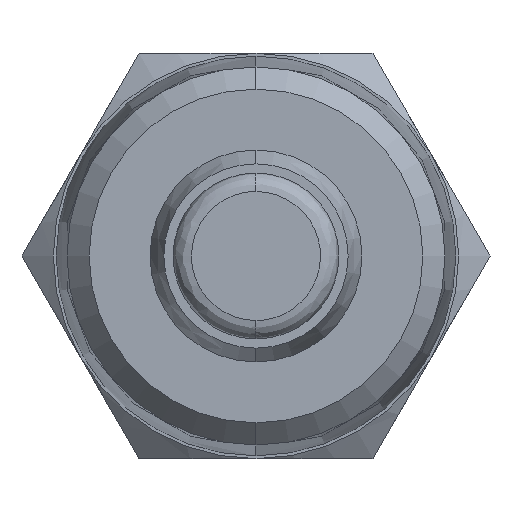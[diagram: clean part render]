
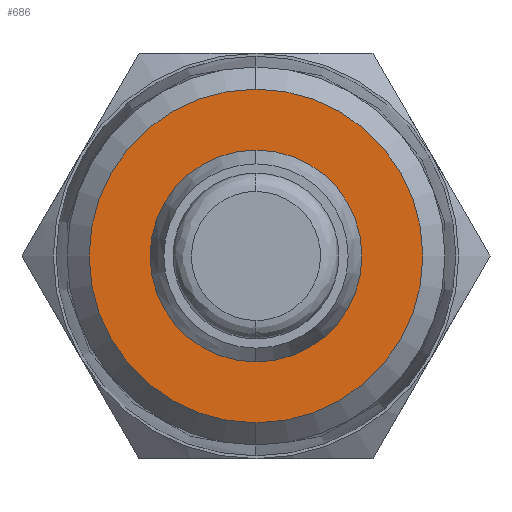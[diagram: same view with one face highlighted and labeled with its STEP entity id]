
A CAD part, left-side view. The second image highlights one B-rep face of the part: STEP entity #686.
In plain terms, the highlighted planar face has unit normal (-1, 0, 0).
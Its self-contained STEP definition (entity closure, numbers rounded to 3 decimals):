
#31 = EDGE_LOOP ( 'NONE', ( #508, #1588 ) ) ;
#118 = DIRECTION ( 'NONE',  ( -1., 0., 0. ) ) ;
#139 = VERTEX_POINT ( 'NONE', #399 ) ;
#230 = VERTEX_POINT ( 'NONE', #1264 ) ;
#247 = ORIENTED_EDGE ( 'NONE', *, *, #1251, .T. ) ;
#284 = AXIS2_PLACEMENT_3D ( 'NONE', #1045, #1757, #1751 ) ;
#365 = CARTESIAN_POINT ( 'NONE',  ( -37.5, 0., -5.75 ) ) ;
#370 = EDGE_LOOP ( 'NONE', ( #1329, #247 ) ) ;
#389 = AXIS2_PLACEMENT_3D ( 'NONE', #1104, #643, #1245 ) ;
#399 = CARTESIAN_POINT ( 'NONE',  ( -37.5, 0., 5.75 ) ) ;
#407 = CARTESIAN_POINT ( 'NONE',  ( -37.5, 0., 0. ) ) ;
#439 = DIRECTION ( 'NONE',  ( 0., 0., 1. ) ) ;
#451 = DIRECTION ( 'NONE',  ( 0., 0., -1. ) ) ;
#459 = DIRECTION ( 'NONE',  ( -1., 0., 0. ) ) ;
#508 = ORIENTED_EDGE ( 'NONE', *, *, #1097, .F. ) ;
#567 = DIRECTION ( 'NONE',  ( -1., 0., 0. ) ) ;
#587 = PLANE ( 'NONE',  #1360 ) ;
#591 = CARTESIAN_POINT ( 'NONE',  ( -37.5, 0., 0. ) ) ;
#643 = DIRECTION ( 'NONE',  ( -1., 0., 0. ) ) ;
#676 = CARTESIAN_POINT ( 'NONE',  ( -37.5, 4.53, 0. ) ) ;
#686 = ADVANCED_FACE ( 'NONE', ( #1467, #1884 ), #587, .T. ) ;
#701 = VERTEX_POINT ( 'NONE', #365 ) ;
#704 = EDGE_CURVE ( 'NONE', #230, #1809, #1355, .T. ) ;
#732 = AXIS2_PLACEMENT_3D ( 'NONE', #591, #459, #451 ) ;
#1045 = CARTESIAN_POINT ( 'NONE',  ( -37.5, 0., 0. ) ) ;
#1049 = DIRECTION ( 'NONE',  ( 0., 0., -1. ) ) ;
#1097 = EDGE_CURVE ( 'NONE', #701, #139, #1426, .T. ) ;
#1104 = CARTESIAN_POINT ( 'NONE',  ( -37.5, 0., 0. ) ) ;
#1149 = EDGE_CURVE ( 'NONE', #139, #701, #1928, .T. ) ;
#1245 = DIRECTION ( 'NONE',  ( 0., 0., -1. ) ) ;
#1251 = EDGE_CURVE ( 'NONE', #1809, #230, #1922, .T. ) ;
#1264 = CARTESIAN_POINT ( 'NONE',  ( -37.5, 0., -9.059 ) ) ;
#1329 = ORIENTED_EDGE ( 'NONE', *, *, #704, .T. ) ;
#1330 = AXIS2_PLACEMENT_3D ( 'NONE', #407, #118, #1049 ) ;
#1355 = CIRCLE ( 'NONE', #1330, 9.059 ) ;
#1360 = AXIS2_PLACEMENT_3D ( 'NONE', #676, #567, #439 ) ;
#1426 = CIRCLE ( 'NONE', #732, 5.75 ) ;
#1467 = FACE_BOUND ( 'NONE', #31, .T. ) ;
#1588 = ORIENTED_EDGE ( 'NONE', *, *, #1149, .F. ) ;
#1603 = CARTESIAN_POINT ( 'NONE',  ( -37.5, 0., 9.059 ) ) ;
#1751 = DIRECTION ( 'NONE',  ( 0., 0., -1. ) ) ;
#1757 = DIRECTION ( 'NONE',  ( -1., 0., 0. ) ) ;
#1809 = VERTEX_POINT ( 'NONE', #1603 ) ;
#1884 = FACE_OUTER_BOUND ( 'NONE', #370, .T. ) ;
#1922 = CIRCLE ( 'NONE', #284, 9.059 ) ;
#1928 = CIRCLE ( 'NONE', #389, 5.75 ) ;
